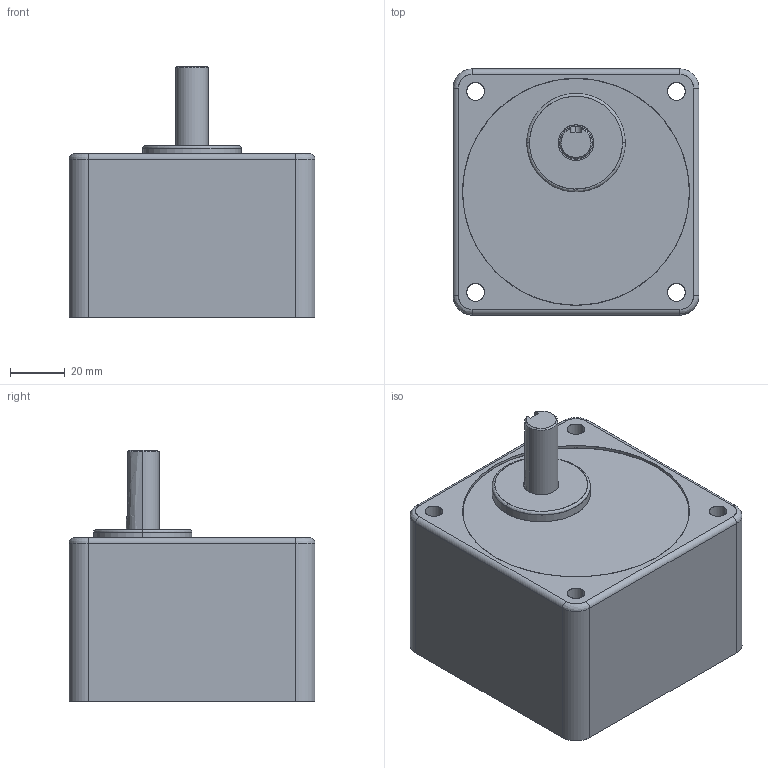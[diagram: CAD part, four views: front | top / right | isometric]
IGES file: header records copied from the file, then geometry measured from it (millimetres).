
Start section: SolidWorks IGES file using analytic representation for surfaces
Global section: file name: C:\Documents and Settings\user\ｹﾙﾅﾁ ﾈｭｸ饅(12-8) 9GBK｡滷MH(25~200).IGS,1; native system: 5HSolidWorks 2007; preprocessor: SolidWorks 2007; author: user; date: 150825.152655; units: millimetre
Bounding box: 90 x 90 x 92 mm (x, y, z)
Surface area: 45470.3 mm2 (no closed solid volume)
Topology: 0 solids, 0 shells, 54 faces, 1141 edges, 1141 vertices
Faces by surface type: revolution 33, bspline 21
